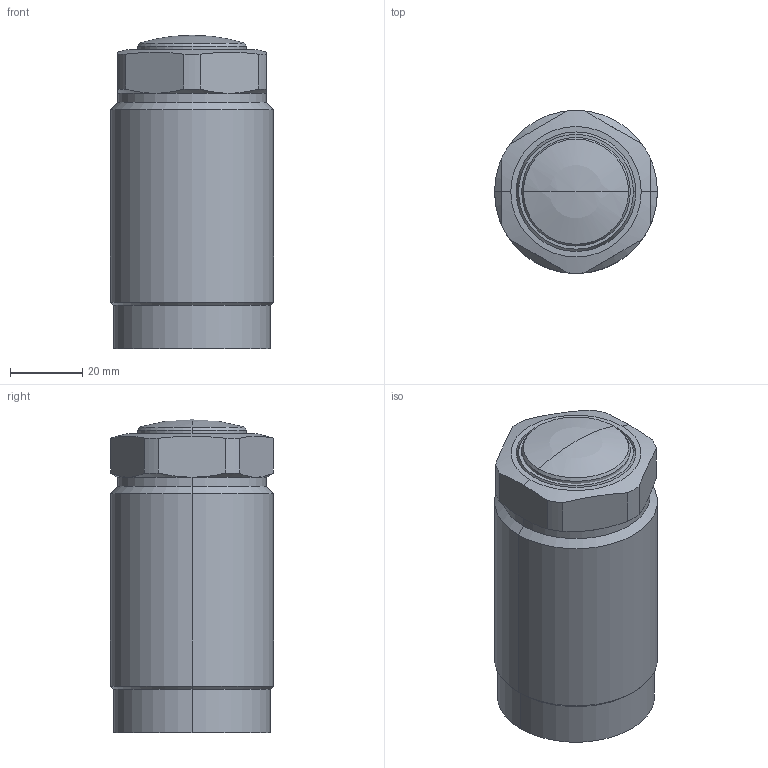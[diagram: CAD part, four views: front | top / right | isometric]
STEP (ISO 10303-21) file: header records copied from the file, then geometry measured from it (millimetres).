
FILE_DESCRIPTION((' '),'2;1');
FILE_NAME( 'TGP45-RL.x_t.stp', '2025-02-10T16:03:56', (' '), ('--- Datakit www.datakit.com---'), ' Datakit CrossCadWare V2024.1 Dec 21 2023', 'Mastercam 2025', ' ');
FILE_SCHEMA(('AUTOMOTIVE_DESIGN { 1 0 10303 214 1 1 1 1 }'));
Length unit declared in the file: millimetre
Products named in the file (1): TGP45-RL
Bounding box: 45 x 45 x 86.5 mm (x, y, z)
Volume: 144878.5 mm3; surface area: 19636.7 mm2
Topology: 2 solids, 2 shells, 61 faces, 142 edges, 88 vertices
Faces by surface type: cylinder 26, plane 15, cone 14, torus 4, sphere 2
Entity records: 1850 total; most frequent: CARTESIAN_POINT 416, DIRECTION 322, ORIENTED_EDGE 276, EDGE_CURVE 138, AXIS2_PLACEMENT_3D 138, VERTEX_POINT 88, CIRCLE 76, EDGE_LOOP 68
